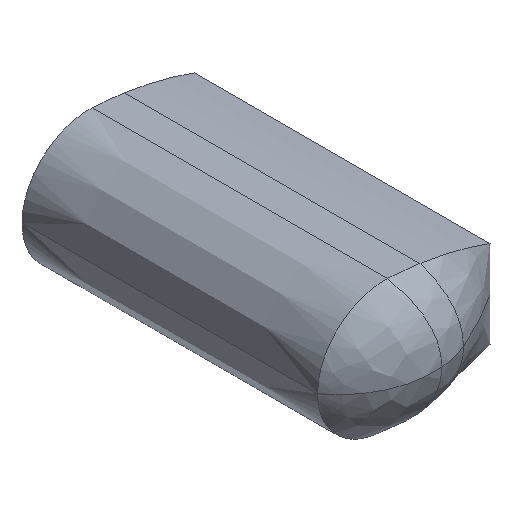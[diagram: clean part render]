
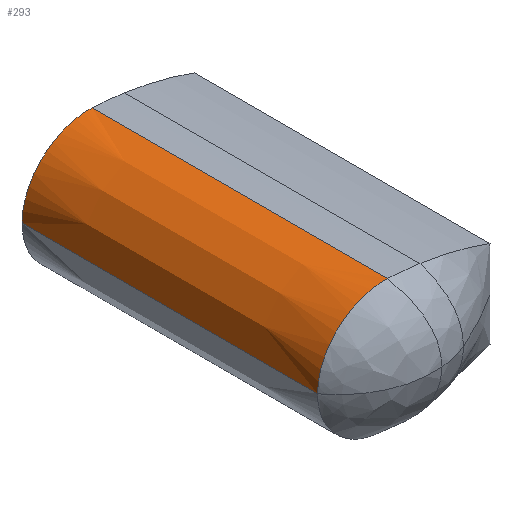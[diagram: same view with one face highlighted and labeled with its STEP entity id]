
A CAD part, isometric view. The second image highlights one B-rep face of the part: STEP entity #293.
In plain terms, the highlighted face is a extrusion surface.
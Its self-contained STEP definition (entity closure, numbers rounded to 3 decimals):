
#39=CARTESIAN_POINT('',(-3.802,6.,0.));
#45=CARTESIAN_POINT('',(-3.802,6.,0.));
#46=CARTESIAN_POINT('',(-3.802,6.,0.09));
#47=CARTESIAN_POINT('',(-3.782,6.,0.27));
#48=CARTESIAN_POINT('',(-3.668,6.,0.614));
#49=CARTESIAN_POINT('',(-3.395,6.,0.984));
#50=CARTESIAN_POINT('',(-2.922,6.,1.268));
#51=CARTESIAN_POINT('',(-2.557,6.,1.323));
#52=CARTESIAN_POINT('',(-2.378,6.,1.314));
#54=DIRECTION('',(0.,-1.,0.));
#55=VECTOR('',#54,6.);
#56=CARTESIAN_POINT('',(-2.378,6.,1.314));
#57=LINE('',#56,#55);
#58=DIRECTION('',(0.,1.,0.));
#59=VECTOR('',#58,6.);
#60=CARTESIAN_POINT('',(-3.802,0.,0.));
#61=LINE('',#60,#59);
#133=CARTESIAN_POINT('',(-3.802,0.,0.));
#144=CARTESIAN_POINT('',(-3.802,0.,0.));
#145=CARTESIAN_POINT('',(-3.802,0.,0.09));
#146=CARTESIAN_POINT('',(-3.782,0.,0.27));
#147=CARTESIAN_POINT('',(-3.668,0.,0.614));
#148=CARTESIAN_POINT('',(-3.395,0.,0.984));
#149=CARTESIAN_POINT('',(-2.922,0.,1.268));
#150=CARTESIAN_POINT('',(-2.557,0.,1.323));
#151=CARTESIAN_POINT('',(-2.378,0.,1.314));
#168=VERTEX_POINT('',#39);
#169=VERTEX_POINT('',#52);
#182=VERTEX_POINT('',#133);
#183=CARTESIAN_POINT('',(-2.378,0.,1.314));
#184=VERTEX_POINT('',#183);
#272=CARTESIAN_POINT('',(-2.378,6.,1.314));
#273=CARTESIAN_POINT('',(-2.557,6.,1.323));
#274=CARTESIAN_POINT('',(-2.922,6.,1.268));
#275=CARTESIAN_POINT('',(-3.395,6.,0.984));
#276=CARTESIAN_POINT('',(-3.668,6.,0.614));
#277=CARTESIAN_POINT('',(-3.782,6.,0.27));
#278=CARTESIAN_POINT('',(-3.802,6.,0.09));
#279=CARTESIAN_POINT('',(-3.802,6.,0.));
#281=DIRECTION('',(0.,-1.,0.));
#282=VECTOR('',#281,1.);
#283=SURFACE_OF_LINEAR_EXTRUSION('',#280,#282);
#285=ORIENTED_EDGE('',*,*,#284,.T.);
#287=ORIENTED_EDGE('',*,*,#286,.T.);
#289=ORIENTED_EDGE('',*,*,#288,.F.);
#290=ORIENTED_EDGE('',*,*,#264,.T.);
#291=EDGE_LOOP('',(#285,#287,#289,#290));
#292=FACE_OUTER_BOUND('',#291,.F.);
#293=ADVANCED_FACE('',(#292),#283,.T.);
#53=B_SPLINE_CURVE_WITH_KNOTS('',3,(#45,#46,#47,#48,#49,#50,#51,#52),
.UNSPECIFIED.,.F.,.F.,(4,1,1,1,1,4),(0.,0.125,0.25,0.5,0.75,1.),
.UNSPECIFIED.);
#152=B_SPLINE_CURVE_WITH_KNOTS('',3,(#144,#145,#146,#147,#148,#149,#150,#151),
.UNSPECIFIED.,.F.,.F.,(4,1,1,1,1,4),(0.,0.125,0.25,0.5,0.75,
1.),.UNSPECIFIED.);
#264=EDGE_CURVE('',#182,#168,#61,.T.);
#280=B_SPLINE_CURVE_WITH_KNOTS('',3,(#272,#273,#274,#275,#276,#277,#278,#279),
.UNSPECIFIED.,.F.,.F.,(4,1,1,1,1,4),(0.,0.25,0.5,0.75,0.875,1.),
.UNSPECIFIED.);
#284=EDGE_CURVE('',#168,#169,#53,.T.);
#286=EDGE_CURVE('',#169,#184,#57,.T.);
#288=EDGE_CURVE('',#182,#184,#152,.T.);
